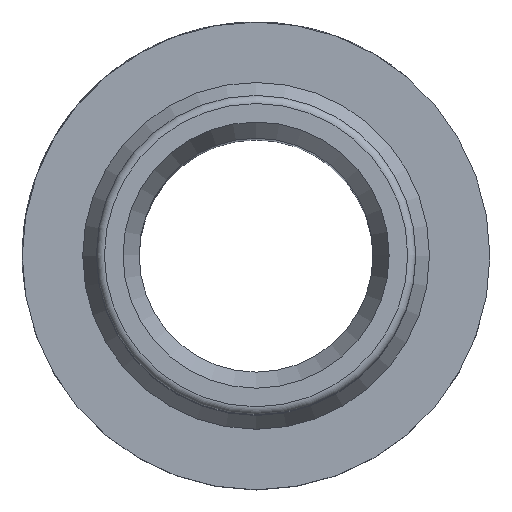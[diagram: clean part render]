
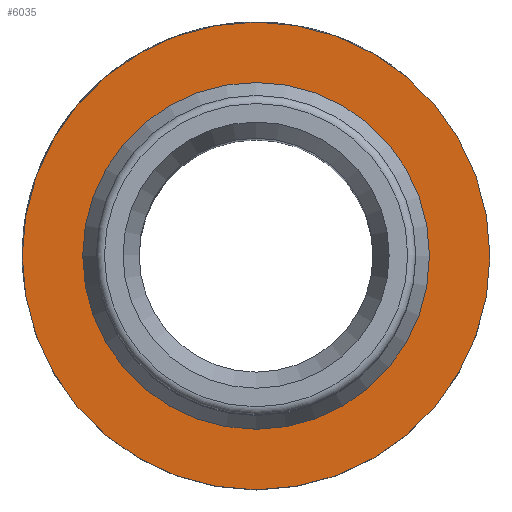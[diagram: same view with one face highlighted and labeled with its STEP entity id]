
A CAD part, top view. The second image highlights one B-rep face of the part: STEP entity #6035.
In plain terms, the highlighted planar face has unit normal (0, 0, 1).
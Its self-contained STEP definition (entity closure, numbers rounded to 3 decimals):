
#56=FACE_BOUND('',#1586,.T.);
#134=PLANE('',#6281);
#1235=FACE_OUTER_BOUND('',#1585,.T.);
#1585=EDGE_LOOP('',(#5295,#5296));
#1586=EDGE_LOOP('',(#5297,#5298));
#1756=CIRCLE('',#6272,14.5);
#1757=CIRCLE('',#6273,14.5);
#1758=CIRCLE('',#6277,10.4);
#1759=CIRCLE('',#6278,10.4);
#2772=VERTEX_POINT('',#13353);
#2773=VERTEX_POINT('',#13355);
#2774=VERTEX_POINT('',#13361);
#2775=VERTEX_POINT('',#13362);
#3649=EDGE_CURVE('',#2772,#2773,#1756,.T.);
#3650=EDGE_CURVE('',#2773,#2772,#1757,.T.);
#3651=EDGE_CURVE('',#2774,#2775,#1758,.T.);
#3652=EDGE_CURVE('',#2775,#2774,#1759,.T.);
#5295=ORIENTED_EDGE('',*,*,#3650,.F.);
#5296=ORIENTED_EDGE('',*,*,#3649,.F.);
#5297=ORIENTED_EDGE('',*,*,#3651,.T.);
#5298=ORIENTED_EDGE('',*,*,#3652,.T.);
#6035=ADVANCED_FACE('',(#1235,#56),#134,.T.);
#6272=AXIS2_PLACEMENT_3D('',#13356,#7083,#7084);
#6273=AXIS2_PLACEMENT_3D('',#13357,#7085,#7086);
#6277=AXIS2_PLACEMENT_3D('',#13363,#7093,#7094);
#6278=AXIS2_PLACEMENT_3D('',#13364,#7095,#7096);
#6281=AXIS2_PLACEMENT_3D('',#13370,#7102,#7103);
#7083=DIRECTION('center_axis',(0.,0.,-1.));
#7084=DIRECTION('ref_axis',(1.,0.,0.));
#7085=DIRECTION('center_axis',(0.,0.,-1.));
#7086=DIRECTION('ref_axis',(1.,0.,0.));
#7093=DIRECTION('center_axis',(0.,0.,-1.));
#7094=DIRECTION('ref_axis',(1.,0.,0.));
#7095=DIRECTION('center_axis',(0.,0.,-1.));
#7096=DIRECTION('ref_axis',(1.,0.,0.));
#7102=DIRECTION('center_axis',(0.,0.,1.));
#7103=DIRECTION('ref_axis',(1.,0.,0.));
#13353=CARTESIAN_POINT('',(0.,-14.5,36.));
#13355=CARTESIAN_POINT('',(0.,14.5,36.));
#13356=CARTESIAN_POINT('Origin',(0.,0.,36.));
#13357=CARTESIAN_POINT('Origin',(0.,0.,36.));
#13361=CARTESIAN_POINT('',(0.,10.4,36.));
#13362=CARTESIAN_POINT('',(0.,-10.4,36.));
#13363=CARTESIAN_POINT('Origin',(0.,0.,36.));
#13364=CARTESIAN_POINT('Origin',(0.,0.,36.));
#13370=CARTESIAN_POINT('Origin',(0.,14.5,36.));
